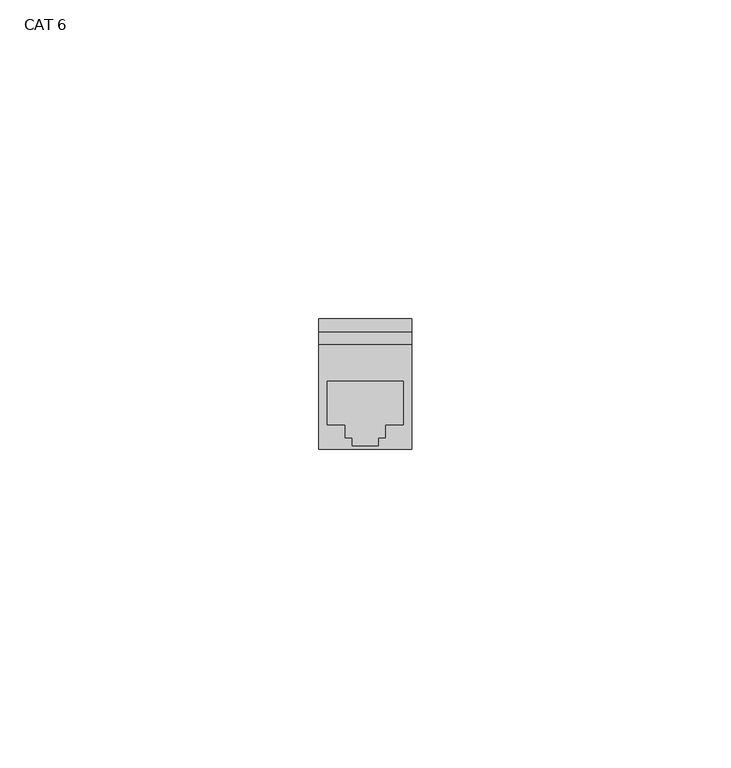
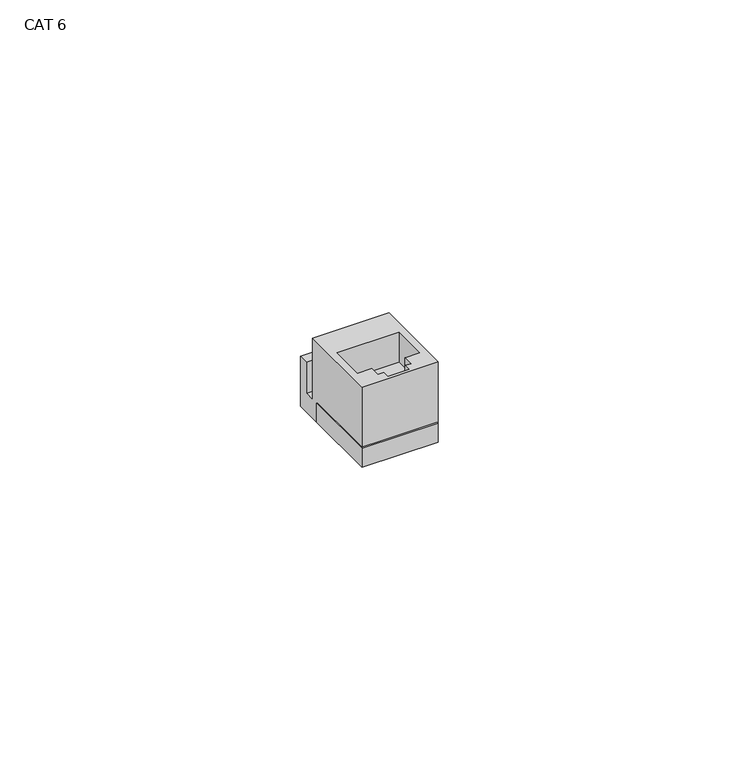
"""IFC4 building model written with IfcOpenShell, lengths in millimetres: electric appliance geometry, Data_Device-Network-Leviton-Connector-Copper-110_Style : CAT 6."""

import ifcopenshell
import ifcopenshell.guid

model = None  # the IFC model being written
_history = None  # IfcOwnerHistory: only IFC2X3 demands one
_inside = {}  # id of a spatial element -> (the spatial element, [elements in it])
_under = {}  # id of a project, library or spatial element -> (it, [spatial elements below it])
_declared = {}  # id of a project -> (the project, [libraries it declares])
_typed = {}  # id of a type object -> (the type object, [elements of that type])
_made_of = {}  # id of a material, layer set ... -> (it, [elements and type objects made of it])


def new_model(schema):
    """Start an empty IFC model of exactly this schema.

    Asked for "IFC4X3", IfcOpenShell would pick the latest addendum, in which some entities
    have other attributes; the version numbers below select the first issue.
    IFC2X3 requires an IfcOwnerHistory on every rooted entity: one is made here for all.
    """
    global model, _history
    if schema == "IFC4X3":
        model = ifcopenshell.file(schema_version=(4, 3, 0, 0))
    else:
        model = ifcopenshell.file(schema=schema)
    _inside.clear()
    _under.clear()
    _declared.clear()
    _typed.clear()
    _made_of.clear()
    _history = None
    if model.schema == "IFC2X3":
        org = make("IfcOrganization", Name="unknown")
        user = make(
            "IfcPersonAndOrganization",
            ThePerson=make("IfcPerson", FamilyName="unknown"),
            TheOrganization=org,
        )
        app = make(
            "IfcApplication",
            ApplicationDeveloper=org,
            Version="unknown",
            ApplicationFullName="unknown",
            ApplicationIdentifier="unknown",
        )
        _history = make(
            "IfcOwnerHistory",
            OwningUser=user,
            OwningApplication=app,
            ChangeAction="ADDED",
            CreationDate=0,
        )
    return model


def make(cls, **values):
    """One entity of the class cls with the attributes given. An attribute that is None is left unset."""
    return model.create_entity(
        cls, **{name: value for name, value in values.items() if value is not None}
    )


def rooted(cls, **values):
    """An entity with a GlobalId (a new one), such as an element, a storey or a relation."""
    return make(cls, GlobalId=ifcopenshell.guid.new(), OwnerHistory=_history, **values)


def si_unit(unit_type, name, prefix=None):
    """IfcSIUnit, for example si_unit("LENGTHUNIT", "METRE", prefix="MILLI")."""
    return make("IfcSIUnit", UnitType=unit_type, Prefix=prefix, Name=name)


def assignment(units):
    """IfcUnitAssignment: the units of a project."""
    return None if units is None else make("IfcUnitAssignment", Units=units)


def point(xyz):
    """IfcCartesianPoint."""
    return None if xyz is None else make("IfcCartesianPoint", Coordinates=xyz)


def direction(xyz):
    """IfcDirection."""
    return None if xyz is None else make("IfcDirection", DirectionRatios=xyz)


def frame(location, z_axis=None, x_axis=None):
    """IfcAxis2Placement3D, a coordinate frame: its origin and axes. An axis left out is left unset."""
    return make(
        "IfcAxis2Placement3D",
        Location=point(location),
        Axis=direction(z_axis),
        RefDirection=direction(x_axis),
    )


def origin():
    """The frame at (0, 0, 0) with its axes left unset."""
    return frame((0.0, 0.0, 0.0))


def place(relative_to, where):
    """IfcLocalPlacement: puts the frame where relative to a parent placement (None: the world)."""
    return make(
        "IfcLocalPlacement", PlacementRelTo=relative_to, RelativePlacement=where
    )


def context(
    kind, dimensions, precision=None, world=None, true_north=None, identifier=None
):
    """IfcGeometricRepresentationContext, for example the 3D "Model" context."""
    return make(
        "IfcGeometricRepresentationContext",
        ContextIdentifier=identifier,
        ContextType=kind,
        CoordinateSpaceDimension=dimensions,
        Precision=precision,
        WorldCoordinateSystem=world,
        TrueNorth=true_north,
    )


def project(units=None, contexts=None):
    """IfcProject with its units and contexts."""
    return rooted(
        "IfcProject",
        Name="project",
        RepresentationContexts=contexts,
        UnitsInContext=assignment(units),
    )


def spatial(cls, under=None, at=None, **own):
    """A site, building, storey or space (cls), placed at a placement, below another one or the project."""
    s = rooted(cls, ObjectPlacement=at, **own)
    if under is not None:
        _under.setdefault(under.id(), (under, []))[1].append(s)
    return s


def polyline(points):
    """IfcPolyline through the points."""
    return make("IfcPolyline", Points=[point(p) for p in points])


def outline(outer, holes=None, kind="AREA"):
    """IfcArbitraryClosedProfileDef: a profile drawn as a closed curve; with holes, ...WithVoids."""
    if holes is None:
        return make("IfcArbitraryClosedProfileDef", ProfileType=kind, OuterCurve=outer)
    return make(
        "IfcArbitraryProfileDefWithVoids",
        ProfileType=kind,
        OuterCurve=outer,
        InnerCurves=holes,
    )


def extrude(swept, where, along, depth):
    """IfcExtrudedAreaSolid: the profile swept, set in the frame where, extruded along a direction by depth."""
    return make(
        "IfcExtrudedAreaSolid",
        SweptArea=swept,
        Position=where,
        ExtrudedDirection=direction(along),
        Depth=depth,
    )


def faces_of(points, faces, orient=None, outer=None):
    """IfcFace entities. A face is a list of loops; a loop is a list of indices into points, from 0.

    orient and outer hold one flag for each loop. By default every Orientation is true, the
    first loop of a face is its IfcFaceOuterBound and the others are IfcFaceBound.
    """
    made = []
    for i, loops in enumerate(faces):
        bounds = []
        for j, loop in enumerate(loops):
            is_outer = j == 0 if outer is None else outer[i][j]
            bounds.append(
                make(
                    "IfcFaceOuterBound" if is_outer else "IfcFaceBound",
                    Bound=make("IfcPolyLoop", Polygon=[points[k] for k in loop]),
                    Orientation=True if orient is None else orient[i][j],
                )
            )
        made.append(make("IfcFace", Bounds=bounds))
    return made


def faceted_brep(points, faces, orient=None, outer=None, voids=None):
    """IfcFacetedBrep: a solid bounded by flat faces; with voids (closed shells), ...WithVoids."""
    shared = [point(p) for p in points]
    hull = make("IfcClosedShell", CfsFaces=faces_of(shared, faces, orient, outer))
    if voids is None:
        return make("IfcFacetedBrep", Outer=hull)
    return make(
        "IfcFacetedBrepWithVoids",
        Outer=hull,
        Voids=[
            make(cls, CfsFaces=faces_of(shared, fs, o, b)) for cls, fs, o, b in voids
        ],
    )


def shape(context_of_items, identifier, shape_type, items):
    """IfcShapeRepresentation: the items that make up one representation, for example the "Body"."""
    return make(
        "IfcShapeRepresentation",
        ContextOfItems=context_of_items,
        RepresentationIdentifier=identifier,
        RepresentationType=shape_type,
        Items=items,
    )


def source(mapping_origin, context_of_items, identifier, shape_type, items):
    """IfcRepresentationMap: a shape defined once, which mapped items show again and again."""
    return make(
        "IfcRepresentationMap",
        MappingOrigin=mapping_origin,
        MappedRepresentation=shape(context_of_items, identifier, shape_type, items),
    )


def transform(
    local_origin,
    x_axis=None,
    y_axis=None,
    z_axis=None,
    scale=None,
    scale2=None,
    scale3=None,
    uniform=True,
):
    """IfcCartesianTransformationOperator3D, or its non-uniform kind. x_axis, y_axis, z_axis: its Axis1, 2, 3."""
    if uniform:
        return make(
            "IfcCartesianTransformationOperator3D",
            Axis1=direction(x_axis),
            Axis2=direction(y_axis),
            LocalOrigin=point(local_origin),
            Scale=scale,
            Axis3=direction(z_axis),
        )
    return make(
        "IfcCartesianTransformationOperator3DnonUniform",
        Axis1=direction(x_axis),
        Axis2=direction(y_axis),
        LocalOrigin=point(local_origin),
        Scale=scale,
        Axis3=direction(z_axis),
        Scale2=scale2,
        Scale3=scale3,
    )


def mapped(mapping_source, mapping_target):
    """IfcMappedItem: shows the shape of a source again, moved by a transform."""
    return make(
        "IfcMappedItem", MappingSource=mapping_source, MappingTarget=mapping_target
    )


def made_of(thing, what):
    """Note that an element or type object is made of a material, layer set ...; save() writes the relation."""
    if what is not None:
        _made_of.setdefault(what.id(), (what, []))[1].append(thing)
    return thing


def element(
    cls,
    number,
    at=None,
    inside=None,
    cuts=None,
    type_object=None,
    material=None,
    context=None,
    identifier="Body",
    shape_type=None,
    held_by="IfcProductDefinitionShape",
    body=None,
    shapes=None,
    **own,
):
    """One element of the class cls, such as IfcWall. Its Tag is "e" and its number.

    at: its placement. inside: the storey or other place that contains it. cuts: it is an
    opening in that element (IfcRelVoidsElement). A single representation is given by context,
    identifier, shape_type and body (its items); several are given by shapes. held_by: the class
    of the entity that holds the representations. save() writes the other relations.
    """
    e = rooted(cls, Tag="e%d" % number, ObjectPlacement=at, **own)
    if body is not None:
        shapes = [shape(context, identifier, shape_type, body)]
    if shapes is not None:
        e.Representation = make(held_by, Representations=shapes)
    if inside is not None:
        _inside.setdefault(inside.id(), (inside, []))[1].append(e)
    if cuts is not None:
        rooted(
            "IfcRelVoidsElement", RelatingBuildingElement=cuts, RelatedOpeningElement=e
        )
    if type_object is not None:
        _typed.setdefault(type_object.id(), (type_object, []))[1].append(e)
    return made_of(e, material)


def aggregate(whole, parts):
    """IfcRelAggregates: a whole, such as a stair, and the parts it consists of."""
    return rooted("IfcRelAggregates", RelatingObject=whole, RelatedObjects=parts)


def save(model, path):
    """Write the relations noted so far, then the file.

    IfcRelAggregates (storeys below a building ...), IfcRelContainedInSpatialStructure (elements
    in a storey), IfcRelDefinesByType, IfcRelAssociatesMaterial and IfcRelDeclares: one each for
    every whole, place, type object, material and project.
    """
    for whole, parts in _under.values():
        aggregate(whole, parts)
    for where, things in _inside.values():
        rooted(
            "IfcRelContainedInSpatialStructure",
            RelatedElements=things,
            RelatingStructure=where,
        )
    for kind, things in _typed.values():
        rooted("IfcRelDefinesByType", RelatedObjects=things, RelatingType=kind)
    for what, things in _made_of.values():
        rooted("IfcRelAssociatesMaterial", RelatedObjects=things, RelatingMaterial=what)
    for by, libraries in _declared.values():
        rooted("IfcRelDeclares", RelatingContext=by, RelatedDefinitions=libraries)
    model.write(path)


def cat_6_282648a7(model_context):
    return source(origin(), model_context, "Body", "SolidModel", [
        extrude(outline(polyline([(7.3025, 15.113), (7.3025, 0.0), (-7.3025, 0.0), (-7.3025, 15.113), (7.3025, 15.113)])), frame((0.0, 0.0, -16.256), z_axis=(0.0, 0.0, 1.0), x_axis=(1.0, 0.0, 0.0)), (0.0, 0.0, 1.0), 3.81),
        faceted_brep([(7.3025, 16.383, 0.0254), (-7.3025, 16.383, 0.0254), (-7.3025, 0.0, 0.0254), (7.3025, 0.0, 0.0254), (-5.9563, 10.6426, 0.0254), (5.9563, 10.6426, 0.0254), (5.9563, 3.81, 0.0254), (3.1496, 3.81, 0.0254), (3.1496, 1.8288, 0.0254), (2.032, 1.8288, 0.0254), (2.032, 0.5588, 0.0254), (-2.032, 0.5588, 0.0254), (-2.032, 1.8288, 0.0254), (-3.1496, 1.8288, 0.0254), (-3.1496, 3.81, 0.0254), (-5.9563, 3.81, 0.0254), (7.3025, 0.0, -12.446), (-7.3025, 0.0, -12.446), (-7.3025, 15.113, -12.446), (7.3025, 15.113, -12.446), (7.3025, 16.383, -12.446), (-7.3025, 16.383, -12.446), (-7.3025, 18.415, -12.446), (-7.3025, 18.415, -6.096), (-7.3025, 20.447, -6.096), (-7.3025, 20.447, -16.256), (-7.3025, 15.113, -16.256), (7.3025, 15.113, -16.256), (7.3025, 20.447, -16.256), (7.3025, 20.447, -6.096), (7.3025, 18.415, -6.096), (7.3025, 18.415, -12.446), (5.9563, 10.6426, -6.0706), (-5.9563, 10.6426, -6.0706), (-5.9563, 3.81, -6.0706), (-3.1496, 3.81, -6.0706), (-3.1496, 1.8288, -6.0706), (-2.032, 1.8288, -6.0706), (-2.032, 0.5588, -6.0706), (2.032, 0.5588, -6.0706), (2.032, 1.8288, -6.0706), (3.1496, 1.8288, -6.0706), (3.1496, 3.81, -6.0706), (5.9563, 3.81, -6.0706)], [[[0, 1, 2, 3], [4, 5, 6, 7, 8, 9, 10, 11, 12, 13, 14, 15]], [[16, 17, 18, 19]], [[1, 0, 20, 21]], [[2, 1, 21, 22, 23, 24, 25, 26, 18, 17]], [[3, 2, 17, 16]], [[0, 3, 16, 19, 27, 28, 29, 30, 31, 20]], [[31, 30, 23, 22]], [[31, 22, 21, 20]], [[27, 19, 18, 26]], [[28, 27, 26, 25]], [[29, 28, 25, 24]], [[30, 29, 24, 23]], [[32, 33, 34, 35, 36, 37, 38, 39, 40, 41, 42, 43]], [[33, 32, 5, 4]], [[34, 33, 4, 15]], [[35, 34, 15, 14]], [[36, 35, 14, 13]], [[37, 36, 13, 12]], [[38, 37, 12, 11]], [[39, 38, 11, 10]], [[40, 39, 10, 9]], [[41, 40, 9, 8]], [[42, 41, 8, 7]], [[43, 42, 7, 6]], [[32, 43, 6, 5]]]),
    ])


if __name__ == "__main__":
    model = new_model("IFC4")
    model_context = context("Model", 3, world=origin())
    ifc_project = project(units=[si_unit("LENGTHUNIT", "METRE", prefix="MILLI")], contexts=[model_context])
    site = spatial("IfcSite", under=ifc_project)
    building = spatial("IfcBuilding", under=site)
    placement = place(None, origin())
    cat_6_shape = cat_6_282648a7(model_context)
    element("IfcElectricAppliance", 1, ObjectType="Data_Device-Network-Leviton-Connector-Copper-110_Style : CAT 6", at=placement, inside=building, context=model_context, shape_type="MappedRepresentation", body=[
        mapped(cat_6_shape, transform((0.0, 0.0, 0.0), x_axis=(1.0, 0.0, 0.0), y_axis=(0.0, 1.0, 0.0), z_axis=(0.0, 0.0, 1.0))),
    ])
    save(model, "model.ifc")
